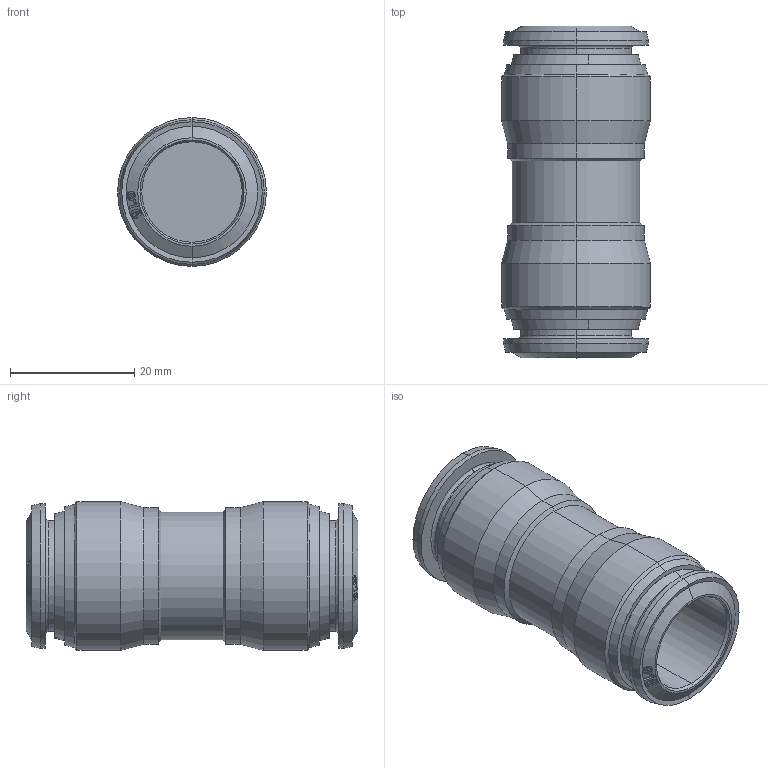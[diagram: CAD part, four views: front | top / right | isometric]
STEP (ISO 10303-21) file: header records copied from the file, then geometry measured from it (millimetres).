
FILE_DESCRIPTION (( 'STEP AP214' ), '1' );
FILE_NAME ('5004000013A.STEP', '2023-11-02T10:39:46', ( '' ), ( '' ), 'SwSTEP 2.0', 'SolidWorks 2020', '' );
FILE_SCHEMA (( 'AUTOMOTIVE_DESIGN' ));
Length unit declared in the file: millimetre
Products named in the file (1): 5004000013A
Bounding box: 24 x 53.5 x 24 mm (x, y, z)
Volume: 10968.2 mm3; surface area: 7520.4 mm2
Topology: 1 solids, 1 shells, 130 faces, 291 edges, 178 vertices
Faces by surface type: cone 47, bspline 47, cylinder 22, plane 10, torus 4
Entity records: 6021 total; most frequent: CARTESIAN_POINT 3357, ORIENTED_EDGE 582, DIRECTION 453, EDGE_CURVE 291, VERTEX_POINT 178, AXIS2_PLACEMENT_3D 172, EDGE_LOOP 145, FACE_OUTER_BOUND 130
